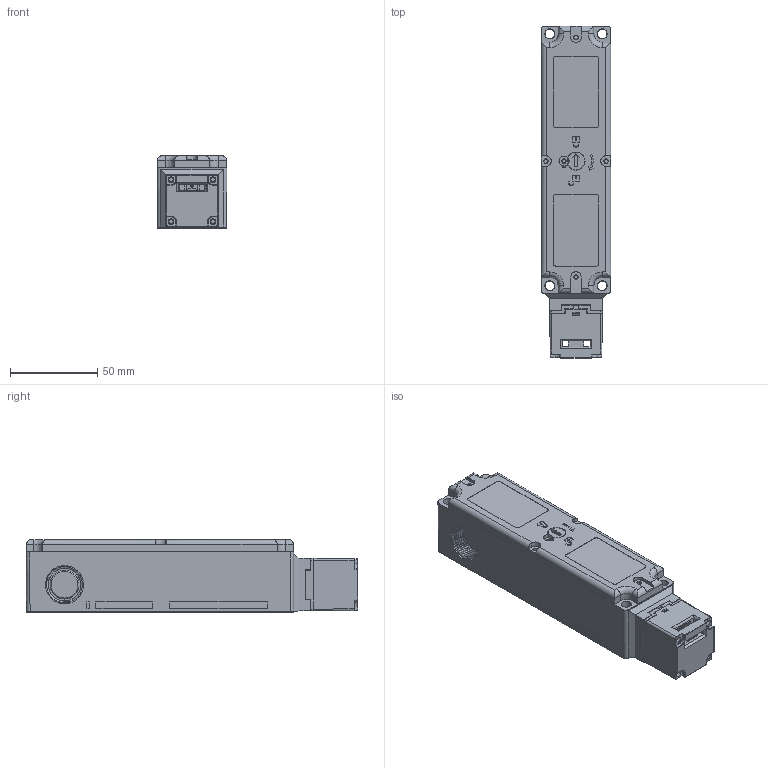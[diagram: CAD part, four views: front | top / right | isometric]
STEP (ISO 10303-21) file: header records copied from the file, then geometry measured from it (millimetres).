
FILE_DESCRIPTION(/* description */ (''),/* implementation_level */ '2;1');
FILE_NAME(/* name */ 'C:\Users\servizio.tecnico\Desktop\fep.stp',/* time_stamp */ '2017-11-09T08:53:24+01:00',/* author */ ('servizio.tecnico'),/* organization */ (''),/* preprocessor_version */ 'ST-DEVELOPER v16.1',/* originating_system */ 'Autodesk Inventor 2016',/* authorisation */ '');
FILE_SCHEMA (('AUTOMOTIVE_DESIGN { 1 0 10303 214 3 1 1 }'));
Products named in the file (9): pl1654pi_ST_A4; GR_Scatola_A5; pl1657pi_ST_B3; pl1659pi_ST_B1; GR_Coperchio_B3; pl1655pi_ST_B2; pl1656pi_ST_B2; GR_Testa_02; fep elettrico
Assembly tree (8 placements, depth 3):
  fep elettrico
    GR_Scatola_A5
      pl1654pi_ST_A4
    GR_Coperchio_B3
      pl1657pi_ST_B3
      pl1659pi_ST_B1
    GR_Testa_02
      pl1655pi_ST_B2
      pl1656pi_ST_B2
Bounding box: 40 x 189.75 x 41.5 mm (x, y, z)
Volume: 201903 mm3; surface area: 92639.5 mm2
Topology: 5 solids, 6 shells, 1727 faces, 4669 edges, 2995 vertices
Faces by surface type: plane 1002, cylinder 289, cone 267, bspline 75, torus 50, sphere 44
Full cylindrical faces by diameter (mm): 1.5 x1, 2.5 x4, 4.3 x1, 6.6 x1, 6.8 x1, 6.958 x1, 10 x1, 12 x1, 17 x1, 20.3 x1, 21.869 x3, 24 x1, 25 x1
Entity records: 71395 total; most frequent: CARTESIAN_POINT 27422, ORIENTED_EDGE 9012, DIRECTION 8973, EDGE_CURVE 4506, AXIS2_PLACEMENT_3D 3139, VERTEX_POINT 2961, LINE 2695, VECTOR 2695
